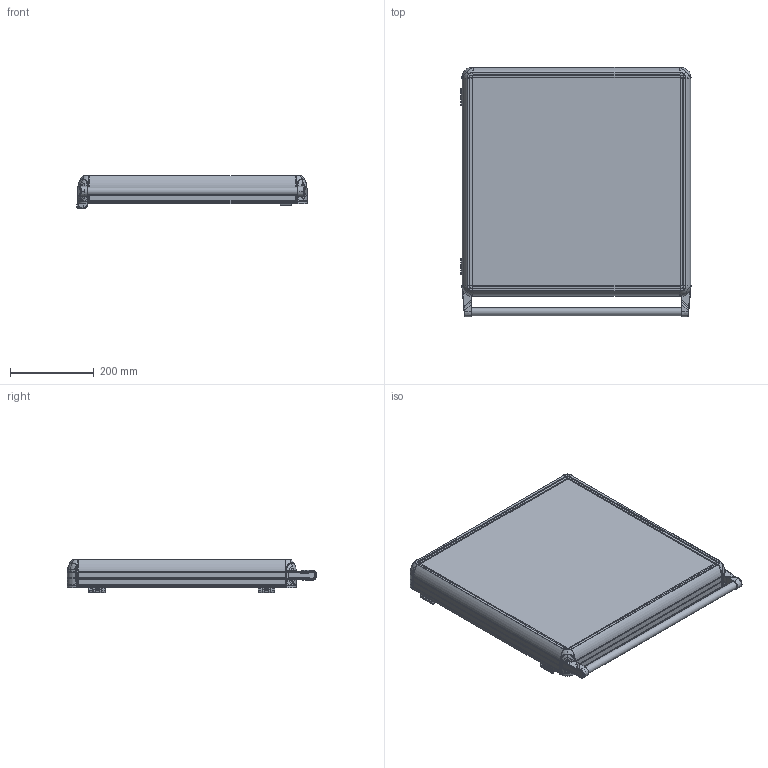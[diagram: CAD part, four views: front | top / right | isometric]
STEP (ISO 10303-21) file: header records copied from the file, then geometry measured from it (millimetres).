
FILE_DESCRIPTION (( 'STEP AP214' ), '1' );
FILE_NAME ('6000-0112.STEP', '2022-08-31T12:55:23', ( '' ), ( '' ), 'SwSTEP 2.0', 'SolidWorks 2022', '' );
FILE_SCHEMA (( 'AUTOMOTIVE_DESIGN' ));
Length unit declared in the file: millimetre
Products named in the file (8): 500X500; boru_525; ECO6000-0100(SOL); ECO6000-0000; HPECO-060-001-495_495; 6000-0112; ECO6000-0100(SAÐ); ARKA_KAPAK_500X500
Assembly tree (11 placements, depth 2):
  6000-0112
    500X500
    ARKA_KAPAK_500X500
    ECO6000-0100(SAÐ)
    ECO6000-0100(SOL)
    ECO6000-0000  x2
    HPECO-060-001-495_495  x4
    boru_525
Bounding box: 549.03 x 595.81 x 79.15 mm (x, y, z)
Volume: 3409015.9 mm3; surface area: 1654840.4 mm2
Topology: 19 solids, 79 shells, 5289 faces, 14129 edges, 8773 vertices
Faces by surface type: plane 2037, cylinder 1383, bspline 1020, cone 527, torus 276, sphere 46
Entity records: 207816 total; most frequent: CARTESIAN_POINT 58194, ORIENTED_EDGE 23746, DIRECTION 19187, EDGE_CURVE 11873, VERTEX_POINT 7398, AXIS2_PLACEMENT_3D 7011, VECTOR 5165, LINE 5165
